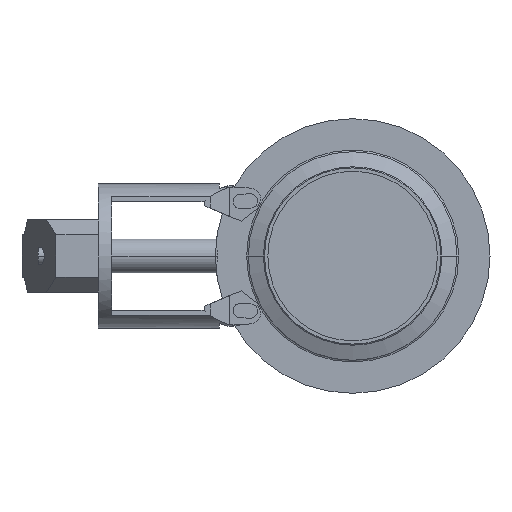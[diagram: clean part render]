
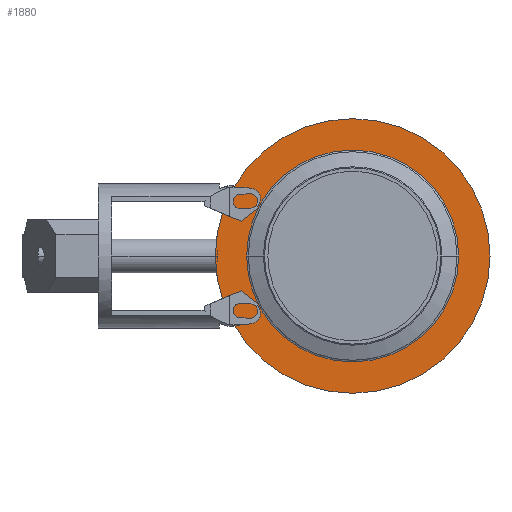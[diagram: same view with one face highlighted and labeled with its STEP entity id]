
A CAD part, left-side view. The second image highlights one B-rep face of the part: STEP entity #1880.
In plain terms, the highlighted planar face has unit normal (-1, 0, 0).
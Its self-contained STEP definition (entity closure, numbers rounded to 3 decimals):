
#1530=CARTESIAN_POINT('',(-424.648,111.796,0.));
#1540=DIRECTION('',(1.,0.,0.));
#1550=DIRECTION('',(0.,-1.,0.));
#1560=AXIS2_PLACEMENT_3D('',#1530,#1540,#1550);
#1570=PLANE('',#1560);
#1580=CARTESIAN_POINT('',(-424.648,33.146,0.));
#1590=DIRECTION('',(1.,0.,0.));
#1600=DIRECTION('',(0.,1.,0.));
#1610=AXIS2_PLACEMENT_3D('',#1580,#1590,#1600);
#1620=CIRCLE('',#1610,62.5);
#1630=CARTESIAN_POINT('',(-424.648,-29.354,0.));
#1640=VERTEX_POINT('',#1630);
#1650=CARTESIAN_POINT('',(-424.648,95.646,0.));
#1660=VERTEX_POINT('',#1650);
#1670=EDGE_CURVE('',#1640,#1660,#1620,.T.);
#1680=ORIENTED_EDGE('',*,*,#1670,.T.);
#1690=EDGE_CURVE('',#1660,#1640,#1620,.T.);
#1700=ORIENTED_EDGE('',*,*,#1690,.T.);
#1710=EDGE_LOOP('',(#1700,#1680));
#1720=FACE_BOUND('',#1710,.T.);
#1730=CARTESIAN_POINT('',(-424.648,33.146,0.));
#1740=DIRECTION('',(1.,0.,0.));
#1750=DIRECTION('',(0.,1.,0.));
#1760=AXIS2_PLACEMENT_3D('',#1730,#1740,#1750);
#1770=CIRCLE('',#1760,81.);
#1780=CARTESIAN_POINT('',(-424.648,-47.854,0.));
#1790=VERTEX_POINT('',#1780);
#1800=CARTESIAN_POINT('',(-424.648,114.146,
0.));
#1810=VERTEX_POINT('',#1800);
#1820=EDGE_CURVE('',#1790,#1810,#1770,.T.);
#1830=ORIENTED_EDGE('',*,*,#1820,.F.);
#1840=EDGE_CURVE('',#1810,#1790,#1770,.T.);
#1850=ORIENTED_EDGE('',*,*,#1840,.F.);
#1860=EDGE_LOOP('',(#1850,#1830));
#1870=FACE_OUTER_BOUND('',#1860,.T.);
#1880=ADVANCED_FACE('',(#1720,#1870),#1570,.F.);
